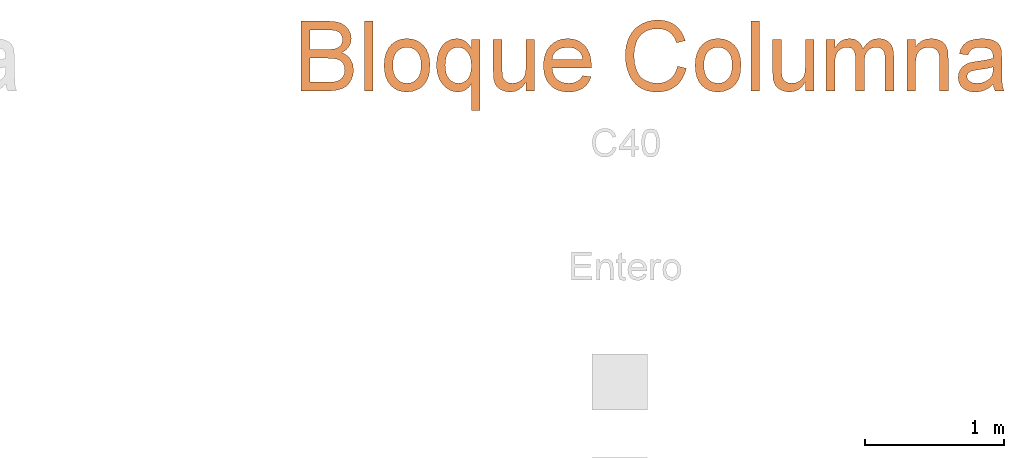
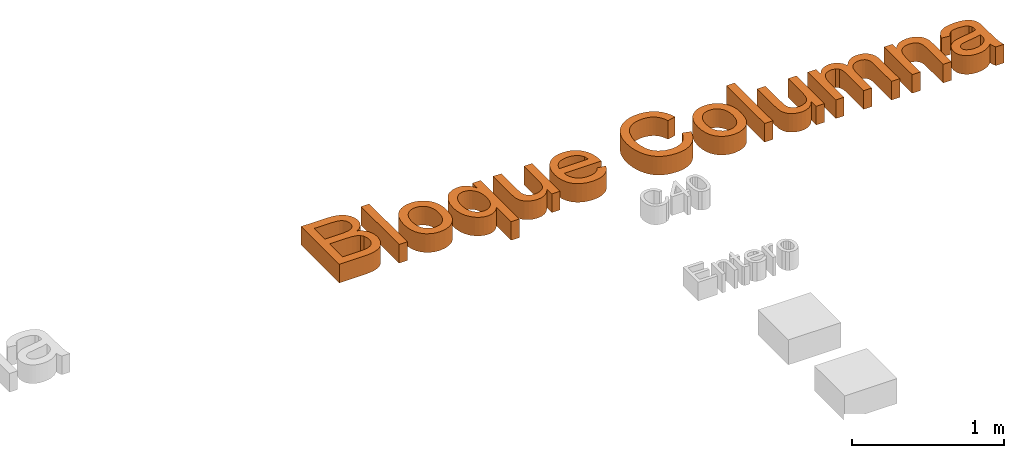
# One storey, part 5 of 8: 1 proxy.
"""IFC2X3 building model written with IfcOpenShell, lengths in metres."""

from ifc_helpers import new_model, entity, si_unit, converted_unit, derived_unit, direction, frame, origin, origin_2d_with_axis, place, context, subcontext, project, spatial, polyline, rectangle, outline, extrude, type_object, element, save


model = new_model("IFC2X3")

# Units and contexts
model_context = context("Model", 3, precision=1e-05, world=origin(), true_north=direction((6.12303176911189e-17, 1.0)))
body_context = subcontext(model_context, "Body", "Model", "MODEL_VIEW")
ifc_project = project(units=[si_unit("LENGTHUNIT", "METRE"), si_unit("AREAUNIT", "SQUARE_METRE"), si_unit("VOLUMEUNIT", "CUBIC_METRE"), converted_unit("PLANEANGLEUNIT", "DEGREE", entity("IfcRatioMeasure", 0.0174532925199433), si_unit("PLANEANGLEUNIT", "RADIAN"), dimensions=[0, 0, 0, 0, 0, 0, 0]), si_unit("MASSUNIT", "GRAM", prefix="KILO"), derived_unit("MASSDENSITYUNIT", [(si_unit("MASSUNIT", "GRAM", prefix="KILO"), 1), (si_unit("LENGTHUNIT", "METRE"), -3)]), derived_unit("MOMENTOFINERTIAUNIT", [(si_unit("LENGTHUNIT", "METRE"), 4)]), si_unit("TIMEUNIT", "SECOND"), si_unit("FREQUENCYUNIT", "HERTZ"), si_unit("THERMODYNAMICTEMPERATUREUNIT", "DEGREE_CELSIUS"), derived_unit("THERMALTRANSMITTANCEUNIT", [(si_unit("MASSUNIT", "GRAM", prefix="KILO"), 1), (si_unit("THERMODYNAMICTEMPERATUREUNIT", "KELVIN"), -1), (si_unit("TIMEUNIT", "SECOND"), -3)]), derived_unit("VOLUMETRICFLOWRATEUNIT", [(si_unit("LENGTHUNIT", "METRE"), 3), (si_unit("TIMEUNIT", "SECOND"), -1)]), si_unit("ELECTRICCURRENTUNIT", "AMPERE"), si_unit("ELECTRICVOLTAGEUNIT", "VOLT"), si_unit("POWERUNIT", "WATT"), si_unit("FORCEUNIT", "NEWTON", prefix="KILO"), si_unit("ILLUMINANCEUNIT", "LUX"), si_unit("LUMINOUSFLUXUNIT", "LUMEN"), si_unit("LUMINOUSINTENSITYUNIT", "CANDELA"), derived_unit("USERDEFINED", [(si_unit("MASSUNIT", "GRAM", prefix="KILO"), -1), (si_unit("LENGTHUNIT", "METRE"), -2), (si_unit("TIMEUNIT", "SECOND"), 3), (si_unit("LUMINOUSFLUXUNIT", "LUMEN"), 1)]), derived_unit("LINEARVELOCITYUNIT", [(si_unit("LENGTHUNIT", "METRE"), 1), (si_unit("TIMEUNIT", "SECOND"), -1)]), si_unit("PRESSUREUNIT", "PASCAL"), derived_unit("USERDEFINED", [(si_unit("LENGTHUNIT", "METRE"), -2), (si_unit("MASSUNIT", "GRAM", prefix="KILO"), 1), (si_unit("TIMEUNIT", "SECOND"), -2)]), derived_unit("LINEARFORCEUNIT", [(si_unit("MASSUNIT", "GRAM", prefix="KILO"), 1), (si_unit("LENGTHUNIT", "METRE"), 1), (si_unit("TIMEUNIT", "SECOND"), -2), (si_unit("LENGTHUNIT", "METRE"), -1)]), derived_unit("PLANARFORCEUNIT", [(si_unit("MASSUNIT", "GRAM", prefix="KILO"), 1), (si_unit("LENGTHUNIT", "METRE"), 1), (si_unit("TIMEUNIT", "SECOND"), -2), (si_unit("LENGTHUNIT", "METRE"), -2)])], contexts=[model_context])

# Site, building, storey
site_placement = place(None, origin())
site = spatial("IfcSite", under=ifc_project, at=site_placement, Name="Default", CompositionType="ELEMENT")
building_placement = place(site_placement, origin())
building = spatial("IfcBuilding", under=site, at=building_placement, CompositionType="ELEMENT")
storey_placement = place(building_placement, origin())
storey = spatial("IfcBuildingStorey", under=building, at=storey_placement, Name="Nivel 1", CompositionType="ELEMENT", Elevation=0.0)

# Proxy
building_element_proxy_type = type_object("IfcBuildingElementProxyType", Name="Texto de modelo:Título", PredefinedType="NOTDEFINED")
proxy_placement = place(storey_placement, origin())
element("IfcBuildingElementProxy", 1, at=proxy_placement, inside=storey, type_object=building_element_proxy_type, Name="Texto de modelo:Título", ObjectType="Texto de modelo:Título", context=body_context, shape_type="SweptSolid", body=[
    extrude(outline(polyline([(-0.292681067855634, -0.243581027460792), (-0.102486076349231, -0.243581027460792), (-0.0585088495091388, -0.241419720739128), (-0.0219812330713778, -0.234935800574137), (0.00807779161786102, -0.224236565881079), (0.0326492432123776, -0.209429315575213), (0.0527141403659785, -0.188981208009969), (0.0692535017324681, -0.161359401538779), (0.0803359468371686, -0.128878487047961), (0.0840300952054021, -0.0938530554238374), (0.0786191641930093, -0.0518225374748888), (0.0623863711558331, -0.015739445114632), (0.050403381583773, -0.000395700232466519), (0.0360981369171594, 0.0125261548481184), (0.0194706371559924, 0.0230261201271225), (0.000520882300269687, 0.0311041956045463), (0.0303039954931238, 0.0506785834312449), (0.0514725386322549, 0.0755566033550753), (0.0641184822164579, 0.103990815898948), (0.0683337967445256, 0.134233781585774), (0.0633214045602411, 0.167097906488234), (0.0482842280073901, 0.198490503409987), (0.0244025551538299, 0.22517727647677), (-0.00714332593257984, 0.243923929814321), (-0.0483001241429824, 0.255006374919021), (-0.101014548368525, 0.258700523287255), (-0.292681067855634, 0.258700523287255), (-0.292681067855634, -0.243581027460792)]), holes=[polyline([(-0.229895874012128, 0.0546486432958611), (-0.229895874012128, 0.195915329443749), (-0.12394585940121, 0.195915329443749), (-0.0752014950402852, 0.194275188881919), (-0.0432570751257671, 0.18935476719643), (-0.022441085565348, 0.180019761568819), (-0.00708201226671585, 0.165135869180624), (0.0023909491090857, 0.146067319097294), (0.00554860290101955, 0.124178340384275), (0.00216102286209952, 0.10163023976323), (-0.00800171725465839, 0.083282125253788), (-0.0248476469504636, 0.069348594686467), (-0.0482847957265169, 0.0600442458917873), (-0.0751401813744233, 0.0559975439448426), (-0.115239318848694, 0.0546486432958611), (-0.229895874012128, 0.0546486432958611)]), polyline([(-0.229895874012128, -0.180795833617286), (-0.229895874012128, -0.00813655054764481), (-0.107268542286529, -0.00813655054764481), (-0.0625555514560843, -0.0102365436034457), (-0.0297067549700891, -0.0165365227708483), (-0.00651486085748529, -0.0280175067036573), (0.00922742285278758, -0.0456605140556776), (0.0182405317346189, -0.0682239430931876), (0.021244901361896, -0.0944661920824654), (0.0186850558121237, -0.117060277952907), (0.0110055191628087, -0.136772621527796), (-0.000644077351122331, -0.152882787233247), (-0.0151141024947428, -0.16467033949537), (-0.0329103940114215, -0.172901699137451), (-0.0545387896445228, -0.178343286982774), (-0.101137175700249, -0.180795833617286), (-0.229895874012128, -0.180795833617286)])]), frame((11.9926723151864, 0.97346820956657, 0.0)), (0.0, 0.0, 1.0), 0.15),
    extrude(rectangle(XDim=0.062785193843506, YDim=0.502281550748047, at=origin_2d_with_axis()), frame((12.1865764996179, 0.981027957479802, 0.0)), (0.0, 0.0, 1.0), 0.15),
    extrude(outline(polyline([(-0.0131957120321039, -0.170548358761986), (0.0307665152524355, -0.170548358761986), (0.0696520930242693, -0.16451238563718), (0.103461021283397, -0.152440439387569), (0.132193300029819, -0.134332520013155), (0.155411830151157, -0.111243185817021), (0.172679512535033, -0.0842269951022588), (0.183996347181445, -0.0532839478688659), (0.189362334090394, -0.0184140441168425), (0.186618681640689, 0.0261717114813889), (0.172415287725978, 0.0679068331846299), (0.161237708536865, 0.0869767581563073), (0.14763823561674, 0.103876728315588), (0.131616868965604, 0.118606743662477), (0.113173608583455, 0.13116680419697), (0.0915479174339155, 0.141494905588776), (0.0659792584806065, 0.149529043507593), (0.00301303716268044, 0.158715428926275), (-0.0385534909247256, 0.158529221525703), (-0.0757586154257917, 0.152292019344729), (-0.108602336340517, 0.140003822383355), (-0.137084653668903, 0.12166463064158), (-0.160392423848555, 0.0984428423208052), (-0.177712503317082, 0.0715068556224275), (-0.189044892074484, 0.0408566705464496), (-0.194389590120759, 0.00649228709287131), (-0.1938749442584, -0.0249843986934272), (-0.188105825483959, -0.054313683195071), (-0.177082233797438, -0.0814955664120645), (-0.160804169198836, -0.106530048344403), (-0.134450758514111, -0.132057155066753), (-0.101064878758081, -0.151235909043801), (-0.060646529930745, -0.164066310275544), (-0.0131957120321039, -0.170548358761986)]), holes=[polyline([(-0.00925174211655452, -0.107887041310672), (-0.039516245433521, -0.104102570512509), (-0.0654537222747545, -0.0969584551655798), (-0.0870641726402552, -0.0864546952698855), (-0.104347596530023, -0.0725912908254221), (-0.117399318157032, -0.0562452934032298), (-0.126314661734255, -0.0382937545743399), (-0.131093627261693, -0.0187366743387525), (-0.131736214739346, 0.00242594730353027), (-0.128372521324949, 0.023071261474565), (-0.121092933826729, 0.0416882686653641), (-0.109897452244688, 0.0582769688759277), (-0.0947860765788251, 0.0728373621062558), (-0.0759345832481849, 0.0844361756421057), (-0.0535187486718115, 0.092140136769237), (-0.0275385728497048, 0.0959492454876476), (0.00200594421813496, 0.0958635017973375), (0.0329855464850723, 0.0920326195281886), (0.0594775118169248, 0.08485251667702), (0.0814818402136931, 0.0743231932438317), (0.0989985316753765, 0.0604446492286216), (0.112185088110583, 0.0441052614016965), (0.121199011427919, 0.0261934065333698), (0.126040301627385, 0.00670908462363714), (0.126708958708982, -0.0143477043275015), (0.123328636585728, -0.035249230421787), (0.116038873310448, -0.0540230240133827), (0.104839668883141, -0.0706690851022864), (0.0897310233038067, -0.0851874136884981), (0.0707470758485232, -0.0966969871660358), (0.0479219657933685, -0.104316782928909), (0.0212556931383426, -0.108046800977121), (-0.00925174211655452, -0.107887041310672)])]), frame((12.4674955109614, 0.91219640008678, 0.0), z_axis=(0.0, 0.0, 1.0), x_axis=(0.0647659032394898, -0.997900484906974, 0.0)), (0.0, 0.0, 1.0), 0.15),
    extrude(outline(polyline([(0.113122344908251, -0.311998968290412), (0.175907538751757, -0.311998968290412), (0.175907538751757, 0.198130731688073), (0.113122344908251, 0.198130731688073), (0.113122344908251, 0.135590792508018), (0.0926742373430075, 0.166385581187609), (0.0687312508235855, 0.188381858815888), (0.0412933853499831, 0.201579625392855), (0.0103606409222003, 0.205978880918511), (-0.0296465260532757, 0.200307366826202), (-0.0662814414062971, 0.183292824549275), (-0.0827211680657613, 0.170616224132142), (-0.0970915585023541, 0.155272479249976), (-0.119624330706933, 0.11658355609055), (-0.133419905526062, 0.0697092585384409), (-0.138018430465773, 0.0171327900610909), (-0.135121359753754, -0.0259975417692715), (-0.126430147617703, -0.0642764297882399), (-0.111944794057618, -0.0977038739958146), (-0.0916652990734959, -0.126279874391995), (-0.0673774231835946, -0.149161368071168), (-0.0408669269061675, -0.165505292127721), (-0.0121338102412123, -0.175311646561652), (0.0188219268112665, -0.178580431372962), (0.046842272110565, -0.174441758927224), (0.0732684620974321, -0.162025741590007), (0.0960464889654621, -0.143355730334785), (0.113122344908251, -0.120455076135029), (0.113122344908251, -0.311998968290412)]), holes=[polyline([(-0.0752332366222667, 0.0136992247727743), (-0.0735586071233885, 0.0447967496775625), (-0.0685347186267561, 0.0715026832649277), (-0.0601615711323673, 0.09381702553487), (-0.0484391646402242, 0.111739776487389), (-0.0343101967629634, 0.125500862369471), (-0.018717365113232, 0.135330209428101), (-0.00166066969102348, 0.141227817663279), (0.0168598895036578, 0.143193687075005), (0.0356103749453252, 0.141082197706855), (0.0531115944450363, 0.134747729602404), (0.0693635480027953, 0.124190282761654), (0.084366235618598, 0.109409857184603), (0.0969470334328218, 0.0904447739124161), (0.105933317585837, 0.0673333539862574), (0.111325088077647, 0.0400755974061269), (0.113122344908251, 0.0086715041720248), (0.111417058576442, -0.0207743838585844), (0.106301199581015, -0.04620422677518), (0.0977747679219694, -0.0676180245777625), (0.0858377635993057, -0.0850157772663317), (0.0715401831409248, -0.0984817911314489), (0.0559320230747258, -0.108100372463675), (0.0390132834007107, -0.113871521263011), (0.0207839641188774, -0.115795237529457), (0.001742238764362, -0.113771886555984), (-0.0158969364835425, -0.107701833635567), (-0.0321335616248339, -0.0975850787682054), (-0.0469676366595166, -0.0834216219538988), (-0.0593338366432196, -0.0652114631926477), (-0.0681668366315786, -0.0429546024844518), (-0.0734666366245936, -0.0166510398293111), (-0.0752332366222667, 0.0136992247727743)])]), frame((12.8111801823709, 0.900619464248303, 0.0)), (0.0, 0.0, 1.0), 0.15),
    extrude(outline(polyline([(0.099374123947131, -0.10269783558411), (0.162159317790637, -0.10269783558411), (0.162159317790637, 0.266165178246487), (0.099374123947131, 0.266165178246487), (0.099374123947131, 0.0742534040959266), (0.0968296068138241, 0.0338323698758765), (0.0891960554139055, 0.00429451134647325), (0.0754464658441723, -0.0172725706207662), (0.0545538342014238, -0.0337812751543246), (0.0292159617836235, -0.0442659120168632), (0.00213064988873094, -0.0477607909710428), (-0.0234831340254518, -0.0443425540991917), (-0.0446516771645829, -0.0340878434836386), (-0.060332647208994, -0.0178550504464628), (-0.0694837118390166, 0.00349743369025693), (-0.0732851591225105, 0.0675089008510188), (-0.0732851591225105, 0.266165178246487), (-0.136070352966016, 0.266165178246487), (-0.136070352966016, 0.0379557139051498), (-0.132391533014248, -0.0204148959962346), (-0.125018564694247, -0.0456454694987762), (-0.113690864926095, -0.0666454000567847), (-0.0968602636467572, -0.083935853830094), (-0.072978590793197, -0.0980379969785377), (-0.0445137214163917, -0.107418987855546), (-0.0139335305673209, -0.110545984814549), (0.0200035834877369, -0.106093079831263), (0.0502005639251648, -0.0927343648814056), (0.0766574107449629, -0.0704698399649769), (0.099374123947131, -0.0392995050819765), (0.099374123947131, -0.10269783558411)])), frame((13.2173358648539, 0.832585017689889, 0.0)), (0.0, 0.0, 1.0), 0.15),
    extrude(outline(polyline([(-0.0285819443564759, -0.112502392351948), (-0.0578029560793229, -0.167249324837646), (-0.0322328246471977, -0.173818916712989), (-0.00713898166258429, -0.17600030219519), (0.0174785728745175, -0.173793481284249), (0.0416198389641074, -0.167198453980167), (0.0648944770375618, -0.156182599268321), (0.0869121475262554, -0.140713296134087), (0.10767285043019, -0.120790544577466), (0.127176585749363, -0.0964143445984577), (0.147184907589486, -0.0628437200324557), (0.159666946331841, -0.0291392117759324), (0.164622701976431, 0.00469918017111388), (0.162052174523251, 0.038671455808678), (0.15193471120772, 0.0717021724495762), (0.134249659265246, 0.102715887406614), (0.108997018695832, 0.131712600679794), (0.0761767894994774, 0.158692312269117), (0.0386809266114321, 0.181565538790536), (0.00190165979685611, 0.196468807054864), (-0.0341610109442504, 0.203402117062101), (-0.0695070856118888, 0.202365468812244), (-0.10292872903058, 0.194014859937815), (-0.133218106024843, 0.179006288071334), (-0.160375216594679, 0.157339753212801), (-0.184400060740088, 0.129015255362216), (-0.202515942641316, 0.0979595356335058), (-0.213436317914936, 0.0659991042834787), (-0.217161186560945, 0.0331339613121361), (-0.213690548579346, -0.00063589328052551), (-0.202780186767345, -0.0339331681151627), (-0.184185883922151, -0.0653805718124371), (-0.157907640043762, -0.0949781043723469), (-0.123945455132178, -0.122725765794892), (-0.109931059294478, -0.132218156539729), (0.053346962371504, 0.0979071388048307), (0.0716760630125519, 0.0804432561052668), (0.0853873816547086, 0.0618484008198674), (0.0944809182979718, 0.0421225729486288), (0.0989566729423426, 0.0212657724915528), (0.0991008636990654, 5.22501907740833e-05), (0.0951997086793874, -0.0207437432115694), (0.0872532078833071, -0.0411222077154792), (0.0752613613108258, -0.0610831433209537), (0.0532495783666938, -0.0864379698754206), (0.0289384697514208, -0.103695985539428), (0.00182798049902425, -0.112502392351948), (-0.0285819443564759, -0.112502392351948)]), holes=[polyline([(0.00214133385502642, 0.134238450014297), (-0.125018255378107, -0.0449812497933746), (-0.147157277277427, -0.0188609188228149), (-0.156876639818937, 0.00844625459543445), (-0.157470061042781, 0.0298610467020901), (-0.153697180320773, 0.0510722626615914), (-0.145557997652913, 0.0720799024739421), (-0.133052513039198, 0.0928839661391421), (-0.103774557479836, 0.124003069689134), (-0.0871344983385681, 0.13477385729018), (-0.0691603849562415, 0.142352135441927), (-0.0507231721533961, 0.146331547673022), (-0.0326938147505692, 0.146305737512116), (-0.0150723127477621, 0.142274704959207), (0.00214133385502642, 0.134238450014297)])]), frame((13.6157853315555, 0.881551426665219, 0.0), z_axis=(0.0, 0.0, -1.0), x_axis=(-0.578660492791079, -0.81556853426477, 0.0)), (0.0, 0.0, -1.0), 0.15),
    extrude(outline(polyline([(0.0277342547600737, -0.18675222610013), (0.0253192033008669, -0.251545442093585), (0.0662863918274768, -0.250788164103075), (0.103708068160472, -0.244672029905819), (0.137584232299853, -0.233197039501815), (0.167914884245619, -0.216363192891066), (0.194290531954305, -0.19463227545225), (0.216301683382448, -0.168466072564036), (0.233948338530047, -0.137864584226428), (0.247230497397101, -0.102827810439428), (0.256187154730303, -0.0655465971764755), (0.260121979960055, -0.0306797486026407), (0.25903497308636, 0.00177273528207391), (0.252926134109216, 0.0318108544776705), (0.242107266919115, 0.0597295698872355), (0.22689017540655, 0.0858238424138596), (0.207274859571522, 0.110093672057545), (0.183261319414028, 0.132539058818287), (0.156028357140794, 0.15266083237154), (0.126754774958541, 0.169959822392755), (0.0954405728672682, 0.184436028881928), (0.0620857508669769, 0.196089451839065), (0.0252628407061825, 0.205121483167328), (-0.0102269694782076, 0.209877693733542), (-0.0443836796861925, 0.21035808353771), (-0.0772072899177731, 0.20656265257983), (-0.108133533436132, 0.198627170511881), (-0.136598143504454, 0.186687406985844), (-0.162601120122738, 0.170743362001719), (-0.186142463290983, 0.150795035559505), (-0.206839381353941, 0.127644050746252), (-0.224309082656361, 0.102092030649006), (-0.238551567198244, 0.074138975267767), (-0.249566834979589, 0.0437848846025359), (-0.257477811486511, 0.00867123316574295), (-0.259851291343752, -0.0249814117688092), (-0.256687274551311, -0.0571730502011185), (-0.24798576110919, -0.0879036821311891), (-0.234053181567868, -0.116618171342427), (-0.215195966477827, -0.142761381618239), (-0.191414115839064, -0.166333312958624), (-0.162707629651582, -0.187333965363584), (-0.130442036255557, -0.131434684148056), (-0.151281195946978, -0.114909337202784), (-0.168106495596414, -0.0975006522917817), (-0.180917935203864, -0.0792086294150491), (-0.189715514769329, -0.0600332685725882), (-0.194744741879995, -0.039805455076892), (-0.196251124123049, -0.0183560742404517), (-0.194234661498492, 0.00431487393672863), (-0.188695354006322, 0.0282073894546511), (-0.179044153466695, 0.0547214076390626), (-0.166862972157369, 0.077970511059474), (-0.152151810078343, 0.0979546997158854), (-0.134910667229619, 0.114673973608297), (-0.11572185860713, 0.12802593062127), (-0.0951676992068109, 0.137908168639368), (-0.073248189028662, 0.144320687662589), (-0.0499633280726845, 0.147263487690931), (-0.00249488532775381, 0.145643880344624), (0.0440402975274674, 0.135953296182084), (0.0982756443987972, 0.114851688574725), (0.142284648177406, 0.0869125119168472), (0.159956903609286, 0.0703870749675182), (0.174077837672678, 0.0521687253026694), (0.184647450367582, 0.0322574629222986), (0.191665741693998, 0.010653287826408), (0.196203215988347, -0.0341872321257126), (0.188845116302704, -0.0789062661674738), (0.17918522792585, -0.104510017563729), (0.166417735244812, -0.126908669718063), (0.150542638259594, -0.14610222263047), (0.131559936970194, -0.162090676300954), (0.109668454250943, -0.174421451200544), (0.0850670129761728, -0.182641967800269), (0.0577556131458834, -0.18675222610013), (0.0277342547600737, -0.18675222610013)])), frame((14.2365451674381, 0.988338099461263, 0.0), z_axis=(0.0, 0.0, -1.0), x_axis=(-0.28554393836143, -0.958365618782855, 0.0)), (0.0, 0.0, -1.0), 0.15),
    extrude(outline(polyline([(-0.0131957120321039, -0.170548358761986), (0.0307665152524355, -0.170548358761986), (0.0696520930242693, -0.16451238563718), (0.103461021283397, -0.152440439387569), (0.132193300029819, -0.134332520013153), (0.155411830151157, -0.111243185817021), (0.172679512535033, -0.0842269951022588), (0.183996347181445, -0.0532839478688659), (0.189362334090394, -0.0184140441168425), (0.186618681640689, 0.0261717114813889), (0.172415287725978, 0.0679068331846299), (0.161237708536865, 0.0869767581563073), (0.14763823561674, 0.103876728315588), (0.131616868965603, 0.118606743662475), (0.113173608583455, 0.13116680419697), (0.0915479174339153, 0.141494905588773), (0.0659792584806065, 0.149529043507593), (0.00301303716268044, 0.158715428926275), (-0.0385534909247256, 0.158529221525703), (-0.0757586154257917, 0.152292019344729), (-0.108602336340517, 0.140003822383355), (-0.137084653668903, 0.12166463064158), (-0.160392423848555, 0.0984428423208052), (-0.177712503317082, 0.0715068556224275), (-0.189044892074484, 0.0408566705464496), (-0.194389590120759, 0.00649228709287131), (-0.1938749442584, -0.0249843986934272), (-0.188105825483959, -0.0543136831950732), (-0.177082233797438, -0.0814955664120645), (-0.160804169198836, -0.106530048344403), (-0.134450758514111, -0.132057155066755), (-0.101064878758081, -0.151235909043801), (-0.060646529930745, -0.164066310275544), (-0.0131957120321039, -0.170548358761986)]), holes=[polyline([(-0.00925174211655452, -0.107887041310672), (-0.039516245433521, -0.104102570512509), (-0.0654537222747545, -0.0969584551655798), (-0.0870641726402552, -0.0864546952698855), (-0.104347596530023, -0.0725912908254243), (-0.117399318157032, -0.0562452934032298), (-0.126314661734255, -0.0382937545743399), (-0.131093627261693, -0.0187366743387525), (-0.131736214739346, 0.00242594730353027), (-0.128372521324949, 0.023071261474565), (-0.121092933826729, 0.0416882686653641), (-0.109897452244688, 0.0582769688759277), (-0.0947860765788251, 0.0728373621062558), (-0.0759345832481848, 0.0844361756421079), (-0.0535187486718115, 0.092140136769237), (-0.027538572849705, 0.0959492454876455), (0.00200594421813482, 0.0958635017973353), (0.0329855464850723, 0.0920326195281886), (0.0594775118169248, 0.08485251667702), (0.0814818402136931, 0.0743231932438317), (0.0989985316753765, 0.0604446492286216), (0.112185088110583, 0.0441052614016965), (0.121199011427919, 0.0261934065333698), (0.126040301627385, 0.00670908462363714), (0.126708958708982, -0.0143477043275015), (0.123328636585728, -0.035249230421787), (0.116038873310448, -0.0540230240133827), (0.104839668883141, -0.0706690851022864), (0.0897310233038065, -0.0851874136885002), (0.0707470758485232, -0.0966969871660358), (0.0479219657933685, -0.104316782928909), (0.0212556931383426, -0.108046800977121), (-0.00925174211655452, -0.107887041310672)])]), frame((14.7042180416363, 0.91219640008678, 0.0), z_axis=(0.0, 0.0, 1.0), x_axis=(0.0647659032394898, -0.997900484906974, 0.0)), (0.0, 0.0, 1.0), 0.15),
    extrude(rectangle(XDim=0.062785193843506, YDim=0.502281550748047, at=origin_2d_with_axis()), frame((14.9648213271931, 0.981027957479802, 0.0)), (0.0, 0.0, 1.0), 0.15),
    extrude(outline(polyline([(0.0993741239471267, -0.10269783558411), (0.162159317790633, -0.10269783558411), (0.162159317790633, 0.266165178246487), (0.0993741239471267, 0.266165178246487), (0.0993741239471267, 0.0742534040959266), (0.096829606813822, 0.0338323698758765), (0.0891960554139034, 0.00429451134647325), (0.0754464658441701, -0.0172725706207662), (0.0545538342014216, -0.0337812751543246), (0.0292159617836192, -0.0442659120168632), (0.00213064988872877, -0.0477607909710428), (-0.0234831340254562, -0.0443425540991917), (-0.0446516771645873, -0.0340878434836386), (-0.0603326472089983, -0.0178550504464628), (-0.0694837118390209, 0.00349743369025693), (-0.0732851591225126, 0.0675089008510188), (-0.0732851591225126, 0.266165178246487), (-0.136070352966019, 0.266165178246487), (-0.136070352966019, 0.0379557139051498), (-0.132391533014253, -0.0204148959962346), (-0.125018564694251, -0.0456454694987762), (-0.113690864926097, -0.0666454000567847), (-0.0968602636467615, -0.083935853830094), (-0.0729785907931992, -0.0980379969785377), (-0.044513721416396, -0.107418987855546), (-0.0139335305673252, -0.110545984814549), (0.0200035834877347, -0.106093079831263), (0.0502005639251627, -0.0927343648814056), (0.0766574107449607, -0.0704698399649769), (0.0993741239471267, -0.0392995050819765), (0.0993741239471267, -0.10269783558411)])), frame((15.2264620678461, 0.832585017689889, 0.0)), (0.0, 0.0, 1.0), 0.15),
    extrude(outline(polyline([(-0.26520740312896, -0.274598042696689), (-0.202422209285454, -0.274598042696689), (-0.202422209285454, -0.0885723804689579), (-0.200030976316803, -0.0453769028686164), (-0.192857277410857, -0.013647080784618), (-0.180349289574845, 0.00922291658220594), (-0.161955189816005, 0.0258389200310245), (-0.139667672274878, 0.0359556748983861), (-0.115479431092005, 0.03932792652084), (-0.0870145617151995, 0.0342695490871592), (-0.0762655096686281, 0.027946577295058), (-0.0678387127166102, 0.0190944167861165), (-0.0569402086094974, -0.00622812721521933), (-0.0533073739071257, -0.0417287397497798), (-0.0533073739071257, -0.274598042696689), (0.00947781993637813, -0.274598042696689), (0.00947781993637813, -0.0663768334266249), (0.0110144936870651, -0.0405561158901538), (0.0156245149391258, -0.0185215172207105), (0.0233078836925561, -0.000273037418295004), (0.0340645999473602, 0.0141893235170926), (0.0471435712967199, 0.0251874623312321), (0.0617937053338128, 0.0330432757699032), (0.0780150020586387, 0.0377567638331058), (0.0958074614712, 0.03932792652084), (0.115075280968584, 0.0368753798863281), (0.131675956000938, 0.0295177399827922), (0.144582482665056, 0.0181593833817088), (0.152767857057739, 0.00370468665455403), (0.157136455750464, -0.0174025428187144), (0.158592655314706, -0.0487184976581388), (0.158592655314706, -0.274598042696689), (0.221377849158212, -0.274598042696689), (0.221377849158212, -0.0217404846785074), (0.219580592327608, 0.00778587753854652), (0.214188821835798, 0.0332118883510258), (0.205202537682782, 0.0545375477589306), (0.192621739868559, 0.0717628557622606), (0.176707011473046, 0.0850410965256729), (0.15771893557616, 0.0945255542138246), (0.135657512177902, 0.100216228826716), (0.110522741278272, 0.102113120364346), (0.0779805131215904, 0.0975529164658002), (0.0486572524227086, 0.0838723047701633), (0.0225529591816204, 0.0610712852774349), (-0.000332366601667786, 0.0291498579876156), (-0.0140053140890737, 0.0598833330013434), (-0.0349132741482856, 0.08292194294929), (-0.0629029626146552, 0.0973153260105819), (-0.0978210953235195, 0.102113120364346), (-0.130409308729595, 0.0974072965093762), (-0.159257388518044, 0.0832898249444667), (-0.18353760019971, 0.0614468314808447), (-0.202422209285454, 0.033564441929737), (-0.202422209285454, 0.0942649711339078), (-0.26520740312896, 0.0942649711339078), (-0.26520740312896, -0.274598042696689)])), frame((15.7401584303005, 1.00448522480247, 0.0)), (0.0, 0.0, 1.0), 0.15),
    extrude(outline(polyline([(-0.160354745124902, -0.269066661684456), (-0.0975695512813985, -0.269066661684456), (-0.0975695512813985, -0.0733534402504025), (-0.0957799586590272, -0.0416619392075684), (-0.0904111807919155, -0.0155039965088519), (-0.0814632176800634, 0.00512038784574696), (-0.0689360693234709, 0.0202112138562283), (-0.0539410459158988, 0.0309947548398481), (-0.0375894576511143, 0.038697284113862), (-0.0198813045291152, 0.0433188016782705), (-0.000816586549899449, 0.0448593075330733), (0.0223446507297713, 0.0421155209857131), (0.0422869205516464, 0.0338841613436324), (0.0578452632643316, 0.0210542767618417), (0.0678547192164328, 0.00451491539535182), (0.073280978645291, -0.0185696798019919), (0.0750897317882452, -0.0510352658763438), (0.0750897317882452, -0.269066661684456), (0.137874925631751, -0.269066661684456), (0.137874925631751, -0.0425739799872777), (0.134563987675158, 0.0181265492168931), (0.127160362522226, 0.043035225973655), (0.115740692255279, 0.0642957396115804), (0.0989100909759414, 0.0818621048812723), (0.0752736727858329, 0.0956883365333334), (0.0469314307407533, 0.104655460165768), (0.0159833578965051, 0.107644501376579), (-0.0189807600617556, 0.10393502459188), (-0.0495609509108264, 0.0928065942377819), (-0.0757572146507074, 0.0742592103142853), (-0.0975695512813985, 0.0482928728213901), (-0.0975695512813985, 0.099796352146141), (-0.160354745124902, 0.099796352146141), (-0.160354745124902, -0.269066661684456)])), frame((16.2160688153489, 0.998953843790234, 0.0)), (0.0, 0.0, 1.0), 0.15),
    extrude(outline(polyline([(0.160198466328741, 0.0633183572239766), (0.186081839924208, 0.0633183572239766), (0.20957626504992, 0.0683751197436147), (0.223259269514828, 0.129651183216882), (0.196354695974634, 0.127680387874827), (0.169011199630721, 0.128948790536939), (0.0618611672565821, 0.149608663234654), (-0.0143748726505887, 0.166632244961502), (-0.0686595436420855, 0.175612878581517), (-0.0932733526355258, 0.173350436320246), (-0.114444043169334, 0.166109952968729), (-0.133347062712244, 0.152284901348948), (-0.15115785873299, 0.130268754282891), (-0.16665857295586, 0.0992555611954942), (-0.178631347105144, 0.0584393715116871), (-0.185193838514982, 0.0145617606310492), (-0.184356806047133, -0.025156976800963), (-0.176301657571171, -0.0592785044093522), (-0.161209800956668, -0.0863644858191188), (-0.138424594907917, -0.108116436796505), (-0.107289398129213, -0.126235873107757), (-0.0859468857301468, -0.0666701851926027), (-0.108704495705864, -0.0488037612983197), (-0.121173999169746, -0.0277690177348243), (-0.124323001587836, -0.000302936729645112), (-0.11911910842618, 0.036857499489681), (-0.10588519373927, 0.0753031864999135), (-0.09687914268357, 0.0896105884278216), (-0.0862803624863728, 0.100641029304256), (-0.0655621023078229, 0.109301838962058), (-0.037273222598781, 0.10741397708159), (-0.0237098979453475, 0.104008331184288), (-0.0220814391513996, 0.0578462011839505), (-0.0263777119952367, -0.00697087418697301), (-0.0290013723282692, -0.0620468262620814), (-0.0256182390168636, -0.0865653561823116), (-0.0184759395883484, -0.109441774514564), (-0.00688892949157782, -0.130138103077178), (0.00982833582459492, -0.148116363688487), (0.0309323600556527, -0.162063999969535), (0.05567964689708, -0.170668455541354), (0.0777227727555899, -0.173552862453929), (0.0986131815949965, -0.172104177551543), (0.1183508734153, -0.166322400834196), (0.136935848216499, -0.156207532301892), (0.153501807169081, -0.141840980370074), (0.16718245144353, -0.123304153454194), (0.177977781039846, -0.100597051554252), (0.185887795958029, -0.0737196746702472), (0.190445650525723, -0.0391006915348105), (0.188458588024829, -0.00537611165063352), (0.178763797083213, 0.0284361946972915), (0.160198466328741, 0.0633183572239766)]), holes=[polyline([(0.0376463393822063, 0.0906843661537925), (0.0549197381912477, 0.0864502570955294), (0.0819049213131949, 0.077880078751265), (0.100148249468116, 0.0661732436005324), (0.11577038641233, 0.0454711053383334), (0.126707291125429, 0.0182763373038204), (0.131208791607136, -0.0132611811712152), (0.127524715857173, -0.0469915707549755), (0.11727190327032, -0.077291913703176), (0.102280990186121, -0.0975818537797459), (0.0842943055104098, -0.107936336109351), (0.0650541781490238, -0.108430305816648), (0.0531649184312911, -0.10357659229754), (0.0433479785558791, -0.0947879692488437), (0.0362512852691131, -0.0825389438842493), (0.0325227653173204, -0.067304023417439), (0.0343615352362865, -0.0123669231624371), (0.0386557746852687, 0.0472362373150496), (0.0376463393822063, 0.0906843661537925)])]), frame((16.5790088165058, 0.91952474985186, 0.0), z_axis=(0.0, 0.0, 1.0), x_axis=(0.217933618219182, -0.975963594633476, 0.0)), (0.0, 0.0, 1.0), 0.15),
])

save(model, "model.ifc")
